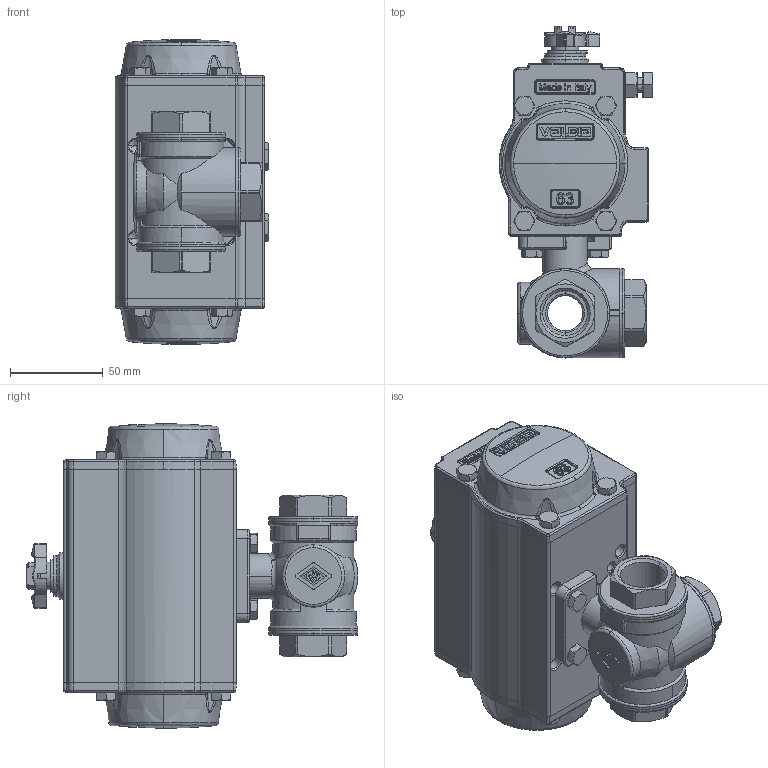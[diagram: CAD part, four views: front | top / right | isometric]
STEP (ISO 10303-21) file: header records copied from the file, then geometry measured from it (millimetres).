
FILE_DESCRIPTION (( 'STEP AP214' ), '1' );
FILE_NAME ('8P00850005.STEP', '2017-03-13T10:53:52', ( 'Negroni' ), ( 'Hewlett-Packard Company' ), 'SwSTEP 2.0', 'SolidWorks 2015', '' );
FILE_SCHEMA (( 'AUTOMOTIVE_DESIGN' ));
Length unit declared in the file: millimetre
Products named in the file (1): 8P00850005
Bounding box: 82.67 x 178.5 x 163.98 mm (x, y, z)
Volume: 1044155.6 mm3; surface area: 98068 mm2
Topology: 1 solids, 1 shells, 1959 faces, 5012 edges, 3101 vertices
Faces by surface type: plane 704, bspline 582, cylinder 378, cone 260, torus 25, sphere 10
Entity records: 117975 total; most frequent: CARTESIAN_POINT 65561, ORIENTED_EDGE 9922, DIRECTION 6353, EDGE_CURVE 4961, VERTEX_POINT 3101, AXIS2_PLACEMENT_3D 2267, EDGE_LOOP 2080, B_SPLINE_CURVE_WITH_KNOTS 2026
